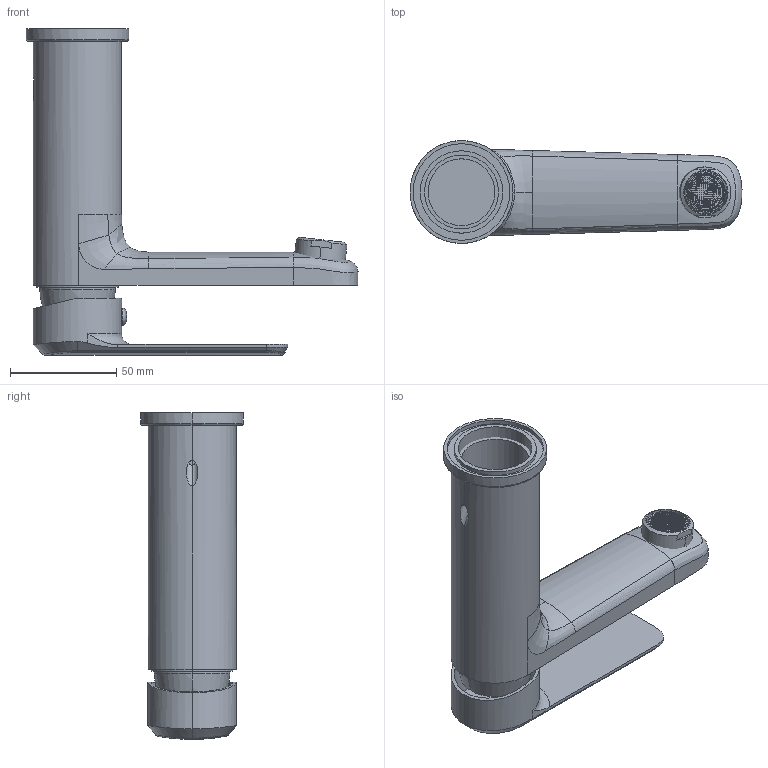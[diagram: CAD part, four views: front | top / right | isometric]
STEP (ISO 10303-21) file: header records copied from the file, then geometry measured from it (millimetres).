
FILE_DESCRIPTION((''),'2;1');
FILE_NAME('SHUILONGTOU-06-001_ASM_ASM','2020-07-14T',('QYH'),(''),'PRO/ENGINEER BY PARAMETRIC TECHNOLOGY CORPORATION, 2015240','PRO/ENGINEER BY PARAMETRIC TECHNOLOGY CORPORATION, 2015240','');
FILE_SCHEMA(('CONFIG_CONTROL_DESIGN'));
Length unit declared in the file: millimetre
Products named in the file (14): A1_1; B1_4; A2_1; 05_ASM_1_ASM; ASM0001_ASM_1_ASM_ASM_ASM_ASM_A_ASM; 04-1; 04-2; 04-3; ASM0002_ASM_ASM_ASM_ASM_ASM_ASM_ASM; 0709-F_ASM_ASM_ASM; SHUILONGTOU-06-001_ASM_2_ASM_ASM; SHUILONGTOU-06-001_ASM_ASM_ASM; SHUILONGTOU02-03; SHUILONGTOU-06-001_ASM_ASM
Assembly tree (13 placements, depth 6):
  SHUILONGTOU-06-001_ASM_ASM
    SHUILONGTOU-06-001_ASM_ASM_ASM
      SHUILONGTOU-06-001_ASM_2_ASM_ASM
        ASM0001_ASM_1_ASM_ASM_ASM_ASM_A_ASM
          A1_1
          B1_4
          A2_1
          05_ASM_1_ASM
        0709-F_ASM_ASM_ASM
          ASM0002_ASM_ASM_ASM_ASM_ASM_ASM_ASM
            04-1
            04-2
            04-3
    SHUILONGTOU02-03
Bounding box: 156.4 x 48.5 x 153.94 mm (x, y, z)
Volume: 229192.3 mm3; surface area: 56245.8 mm2
Topology: 7 solids, 7 shells, 1122 faces, 3501 edges, 2278 vertices
Faces by surface type: plane 882, cylinder 170, bspline 32, cone 18, torus 12, sphere 4, extrusion 3, revolution 1
Entity records: 43623 total; most frequent: CARTESIAN_POINT 11379, ORIENTED_EDGE 6990, DIRECTION 6203, EDGE_CURVE 3495, VECTOR 2656, LINE 2653, VERTEX_POINT 2278, AXIS2_PLACEMENT_3D 1773
